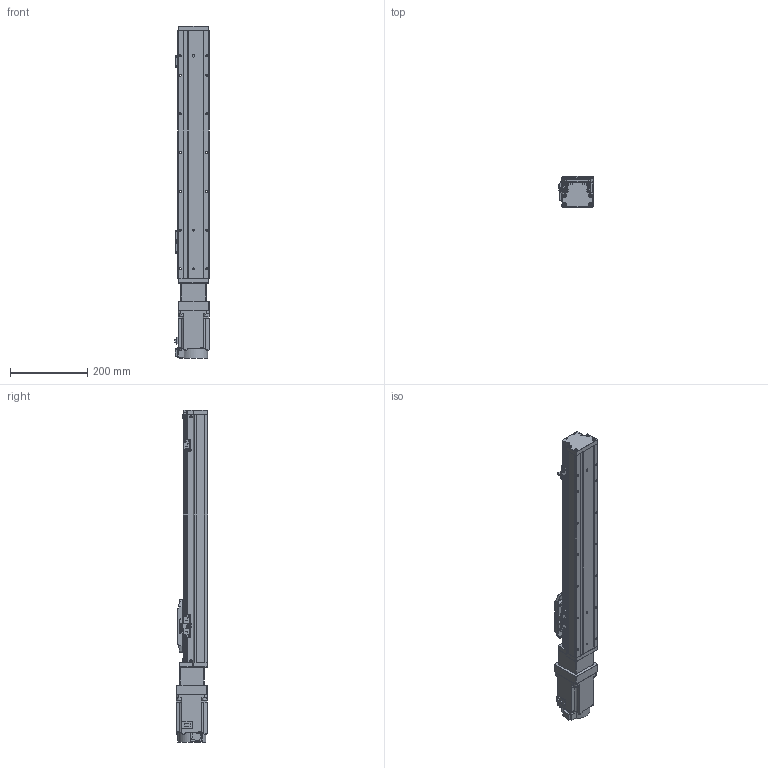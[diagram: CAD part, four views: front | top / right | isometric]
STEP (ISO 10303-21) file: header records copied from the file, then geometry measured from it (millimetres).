
FILE_DESCRIPTION (( 'STEP AP203' ), '1' );
FILE_NAME ('GTH8-450-BC-M75-C4.step', '2023-02-14T02:19:33', ( '微软用户' ), ( '微软中国' ), 'SwSTEP 2.0', 'SolidWorks 2020', '' );
FILE_SCHEMA (( 'CONFIG_CONTROL_DESIGN' ));
Length unit declared in the file: millimetre
Products named in the file (19): CTHA86-013; GTH80-013; CTHA86-027; GBT 70.3-M3℅6; hg-kn73j_-s100; GTH80-022; GTH50-023; GTH80-001_450; GTH8-450-BC-M75-C4; GBT 70.1-M3℅6; GBT96.1-2002 3×0.8; GTH80-003; GBT 70.1-M4×16; BTH-M3X5X6; GTH80-004; GTH80-028; CTHA86-006-1_CTHA86-006-4; GTH80-006; GTH50-024
Assembly tree (60 placements, depth 2):
  GTH8-450-BC-M75-C4
    GTH80-001_450
    GTH80-003
    GTH80-004
    GTH80-006
    GTH80-013
    GBT 70.3-M3℅6  x6
    GTH80-022
    GBT 70.1-M3℅6  x14
    GBT 70.1-M4×16  x8
    GTH80-028  x2
    GTH50-024  x3
    GTH50-023  x3
    GBT96.1-2002 3×0.8  x6
    BTH-M3X5X6  x8
    CTHA86-006-1_CTHA86-006-4
    CTHA86-013
    CTHA86-027
    hg-kn73j_-s100
Bounding box: 89.8 x 81.72 x 857.2 mm (x, y, z)
Volume: 3997906.3 mm3; surface area: 426917.5 mm2
Topology: 62 solids, 62 shells, 2253 faces, 5186 edges, 3160 vertices
Faces by surface type: plane 1185, cylinder 611, cone 285, torus 162, sphere 8, bspline 2
Entity records: 39489 total; most frequent: CARTESIAN_POINT 6506, DIRECTION 6503, ORIENTED_EDGE 5962, EDGE_CURVE 2981, AXIS2_PLACEMENT_3D 2275, LINE 1953, VECTOR 1953, VERTEX_POINT 1873
